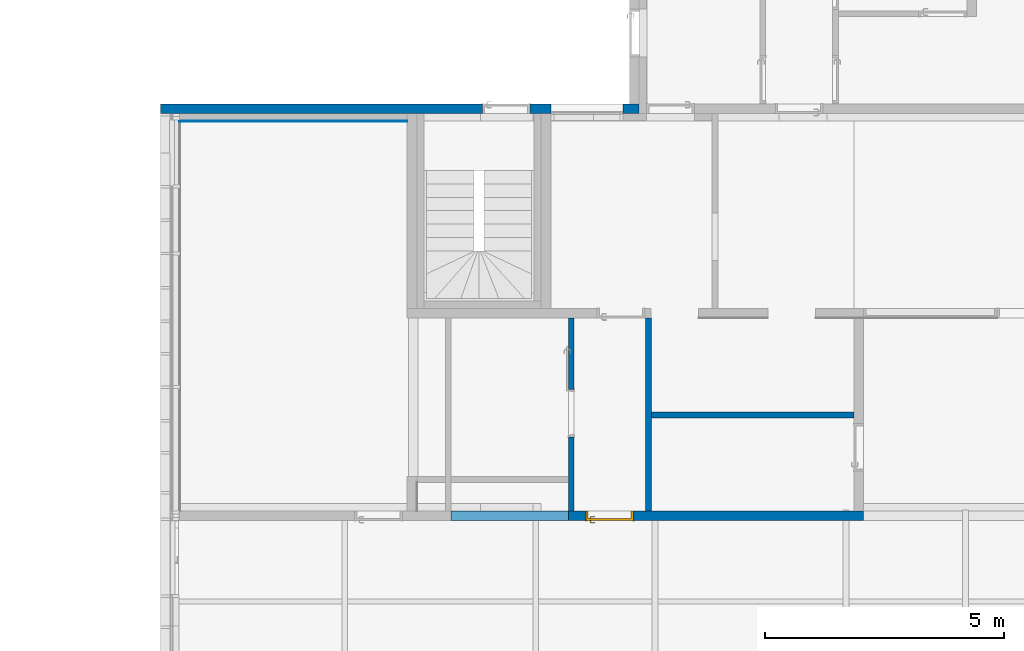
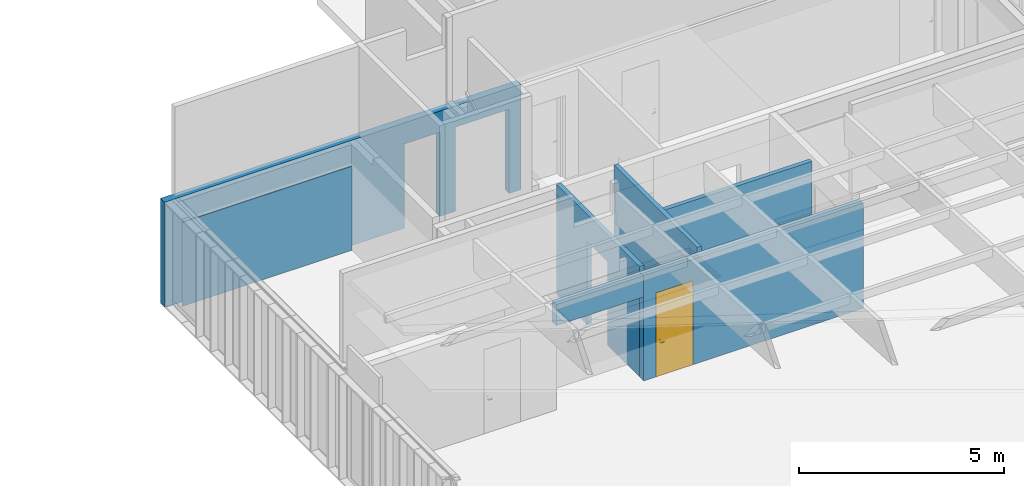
# One storey, part 83 of 240: 7 walls, 1 door, 4 openings.
"""IFC2X3 building model written with IfcOpenShell, lengths in centimetres."""

from ifc_helpers import new_model, entity, si_unit, converted_unit, derived_unit, direction, frame, frame_2d, origin, place, context, subcontext, project, spatial, rectangle, extrude, faceted_brep, source, transform, mapped, material, material_list, layer, layer_set, layer_usage, type_object, type_shapes, element, fill, save


model = new_model("IFC2X3")

# Units and contexts
model_context = context("Model", 3, precision=0.001, world=origin(), true_north=direction((6.12303176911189e-17, 1.0)))
body_context = subcontext(model_context, "Body", "Model", "MODEL_VIEW")
ifc_project = project(units=[si_unit("LENGTHUNIT", "METRE", prefix="CENTI"), si_unit("AREAUNIT", "SQUARE_METRE"), si_unit("VOLUMEUNIT", "CUBIC_METRE"), converted_unit("PLANEANGLEUNIT", "DEGREE", entity("IfcRatioMeasure", 0.0174532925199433), si_unit("PLANEANGLEUNIT", "RADIAN"), dimensions=[0, 0, 0, 0, 0, 0, 0]), si_unit("MASSUNIT", "GRAM", prefix="KILO"), derived_unit("MASSDENSITYUNIT", [(si_unit("MASSUNIT", "GRAM", prefix="KILO"), 1), (si_unit("LENGTHUNIT", "METRE"), -3)]), si_unit("TIMEUNIT", "SECOND"), si_unit("FREQUENCYUNIT", "HERTZ"), si_unit("THERMODYNAMICTEMPERATUREUNIT", "DEGREE_CELSIUS"), derived_unit("THERMALTRANSMITTANCEUNIT", [(si_unit("MASSUNIT", "GRAM", prefix="KILO"), 1), (si_unit("THERMODYNAMICTEMPERATUREUNIT", "KELVIN"), -1), (si_unit("TIMEUNIT", "SECOND"), -3)]), derived_unit("VOLUMETRICFLOWRATEUNIT", [(si_unit("LENGTHUNIT", "METRE"), 3), (si_unit("TIMEUNIT", "SECOND"), -1)]), si_unit("ELECTRICCURRENTUNIT", "AMPERE"), si_unit("ELECTRICVOLTAGEUNIT", "VOLT"), si_unit("POWERUNIT", "WATT"), si_unit("FORCEUNIT", "NEWTON", prefix="KILO"), si_unit("ILLUMINANCEUNIT", "LUX"), si_unit("LUMINOUSFLUXUNIT", "LUMEN"), si_unit("LUMINOUSINTENSITYUNIT", "CANDELA"), derived_unit("USERDEFINED", [(si_unit("MASSUNIT", "GRAM", prefix="KILO"), -1), (si_unit("LENGTHUNIT", "METRE"), -2), (si_unit("TIMEUNIT", "SECOND"), 3), (si_unit("LUMINOUSFLUXUNIT", "LUMEN"), 1)]), derived_unit("LINEARVELOCITYUNIT", [(si_unit("LENGTHUNIT", "METRE"), 1), (si_unit("TIMEUNIT", "SECOND"), -1)]), si_unit("PRESSUREUNIT", "PASCAL"), derived_unit("USERDEFINED", [(si_unit("LENGTHUNIT", "METRE"), -2), (si_unit("MASSUNIT", "GRAM", prefix="KILO"), 1), (si_unit("TIMEUNIT", "SECOND"), -2)])], contexts=[model_context])

# Site, building, storey
site_placement = place(None, frame((-2781.94577612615, 7442.24238424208, 0.0)))
site = spatial("IfcSite", under=ifc_project, at=site_placement, Name="Default", CompositionType="ELEMENT")
building_placement = place(site_placement, origin())
building = spatial("IfcBuilding", under=site, at=building_placement, CompositionType="ELEMENT")
storey_placement = place(building_placement, origin())
storey = spatial("IfcBuildingStorey", under=building, at=storey_placement, Name="N00 - COO", CompositionType="ELEMENT", Elevation=0.0)

# Wall, opening, door
ifc_material_1 = material(Name="01 - Maçonnerie")
ifc_layer_1 = layer(ifc_material_1, 20.0)
ifc_layer_set_1 = layer_set([ifc_layer_1], Name="Mur de base:04 - Structure - béton - 20cm")
ifc_layer_usage_1 = layer_usage(ifc_layer_set_1, "AXIS2", "NEGATIVE", 10.0)
wall_type_1 = type_object("IfcWallType", Name="Mur de base:04 - Structure - béton - 20cm", PredefinedType="STANDARD", material=ifc_layer_set_1)
wall_1_placement = place(building_placement, frame((-10411.9647381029, -4215.50027342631, 0.0), z_axis=(0.0, 0.0, 1.0), x_axis=(-1.0, 0.0, 0.0)))
wall_1 = element("IfcWallStandardCase", 1, at=wall_1_placement, inside=storey, type_object=wall_type_1, material=ifc_layer_usage_1, Name="Mur de base:04 - Structure - béton - 20cm", ObjectType="Mur de base:04 - Structure - béton - 20cm", context=body_context, shape_type="SweptSolid", body=[
    extrude(rectangle(XDim=617.967441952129, YDim=20.0000000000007, at=frame_2d((308.983720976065, 4.44089209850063e-15), x_axis=(-1.0, 0.0))), origin(), (0.0, 0.0, 1.0), 313.000000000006),
])
opening_1_placement = place(wall_1_placement, frame((481.467441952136, -10.0, 0.0)))
opening_1 = element("IfcOpeningElement", 2, at=opening_1_placement, cuts=wall_1, Name="Int. Simple:PP (0.93m x 2.50m):1", ObjectType="Opening", context=body_context, shape_type="SweptSolid", body=[
    extrude(rectangle(XDim=248.500000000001, YDim=99.9999999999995, at=frame_2d((124.250000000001, 50.0), x_axis=(1.0, 0.0))), frame((0.0, 0.0, 0.0), z_axis=(0.0, 1.0, 0.0), x_axis=(0.0, 0.0, 1.0)), (0.0, 0.0, 1.0), 20.0),
])
ifc_material_2 = material(Name="Finition Peinture - Blanc satiné")
ifc_material_3 = material(Name="Bois - Panneau de porte")
ifc_material_4 = material(Name="Bois - Cadre de porte")
ifc_material_list_1 = material_list([ifc_material_2, ifc_material_3, ifc_material_4])
ifc_material_list_2 = material_list([ifc_material_2, ifc_material_3, ifc_material_4])
door_style = type_object("IfcDoorStyle", Name="PP (0.93m x 2.50m)", ConstructionType="NOTDEFINED", OperationType="SINGLE_SWING_LEFT", ParameterTakesPrecedence=False, Sizeable=False, material=ifc_material_list_2)
shared_shape = source(origin(), body_context, "Body", "Brep", [
    faceted_brep([(10.5352761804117, -0.500000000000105, 86.6003983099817), (11.5000000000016, -0.500000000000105, 87.0), (11.5000000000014, -0.500000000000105, 108.0), (10.5352761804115, -0.500000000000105, 108.399601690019), (9.50000000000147, -0.500000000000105, 108.535898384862), (8.46472381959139, -0.500000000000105, 108.399601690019), (7.50000000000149, -0.500000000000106, 108.0), (7.50000000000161, -0.500000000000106, 87.0), (8.46472381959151, -0.500000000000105, 86.6003983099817), (9.50000000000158, -0.500000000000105, 86.464101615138), (10.5352761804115, 0.0, 108.399601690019), (11.5000000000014, 0.0, 108.0), (11.5000000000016, 0.0, 87.0), (10.5352761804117, 0.0, 86.6003983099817), (9.50000000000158, 0.0, 86.464101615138), (8.46472381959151, 0.0, 86.6003983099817), (7.50000000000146, 0.0, 87.0), (7.50000000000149, 0.0, 108.0), (8.46472381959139, 0.0, 108.399601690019), (9.50000000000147, 0.0, 108.535898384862)], [[[0, 1, 2, 3, 4, 5, 6, 7, 8, 9]], [[10, 11, 12, 13, 14, 15, 16, 17, 18, 19]], [[16, 15, 8, 7]], [[8, 15, 14, 9]], [[14, 13, 0, 9]], [[13, 12, 1, 0]], [[2, 1, 12, 11]], [[11, 10, 3, 2]], [[3, 10, 19, 4]], [[19, 18, 5, 4]], [[18, 17, 6, 5]], [[7, 6, 17, 16]]]),
    faceted_brep([(10.5352761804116, 4.0, 86.6003983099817), (11.5000000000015, 4.0, 87.0), (11.5000000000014, 4.0, 108.0), (10.5352761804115, 4.0, 108.399601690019), (9.50000000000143, 4.0, 108.535898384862), (8.46472381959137, 4.0, 108.399601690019), (7.50000000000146, 4.0, 108.0), (7.50000000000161, 4.0, 87.0), (8.46472381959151, 4.0, 86.6003983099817), (9.50000000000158, 4.0, 86.464101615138), (10.5352761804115, 4.49999999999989, 108.399601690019), (11.5000000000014, 4.49999999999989, 108.0), (11.5000000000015, 4.49999999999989, 87.0), (10.5352761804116, 4.49999999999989, 86.6003983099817), (9.50000000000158, 4.49999999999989, 86.464101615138), (8.46472381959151, 4.49999999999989, 86.6003983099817), (7.50000000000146, 4.49999999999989, 87.0), (7.50000000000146, 4.49999999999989, 108.0), (8.46472381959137, 4.49999999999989, 108.399601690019), (9.50000000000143, 4.49999999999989, 108.535898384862)], [[[0, 1, 2, 3, 4, 5, 6, 7, 8, 9]], [[10, 11, 12, 13, 14, 15, 16, 17, 18, 19]], [[11, 10, 3, 2]], [[3, 10, 19, 4]], [[19, 18, 5, 4]], [[18, 17, 6, 5]], [[7, 6, 17, 16]], [[16, 15, 8, 7]], [[8, 15, 14, 9]], [[14, 13, 0, 9]], [[13, 12, 1, 0]], [[2, 1, 12, 11]]]),
    faceted_brep([(9.29747013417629, -0.500000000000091, 100.778044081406), (9.70252986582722, -0.500000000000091, 100.778044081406), (10.1000000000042, -0.500000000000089, 100.699999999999), (10.1000000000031, -0.500000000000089, 99.3000000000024), (9.7025298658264, -0.500000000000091, 99.2219559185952), (9.29747013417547, -0.500000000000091, 99.221955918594), (8.8999999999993, -0.500000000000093, 99.2999999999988), (8.89999999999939, -0.500000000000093, 100.7), (8.89999999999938, -3.26509507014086, 100.7), (9.29747013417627, -3.10045754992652, 100.778044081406), (10.9023585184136, -4.70534593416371, 100.778044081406), (11.0701397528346, -4.30028620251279, 100.778044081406), (9.7025298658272, -2.93267631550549, 100.778044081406), (10.1000000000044, -2.76803879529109, 100.7), (10.1000000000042, -2.76803879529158, 99.3000000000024), (9.7025298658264, -2.93267631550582, 99.2219559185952), (11.0701397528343, -4.30028620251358, 99.2219559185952), (10.9023585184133, -4.70534593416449, 99.221955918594), (9.29747013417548, -3.10045754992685, 99.221955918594), (8.89999999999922, -3.26509507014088, 99.2999999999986), (10.7377209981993, -5.10281606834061, 100.7), (11.2347772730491, -3.90281606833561, 100.7), (11.2347772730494, -3.90281606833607, 99.3000000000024), (10.7377209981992, -5.10281606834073, 99.2999999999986), (19.5018640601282, -5.1028160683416, 99.2999999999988), (19.5018640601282, -4.70534593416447, 99.221955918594), (19.5018640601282, -4.30028620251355, 99.2219559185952), (19.5018640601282, -3.90281606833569, 99.3000000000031), (19.5018640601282, -3.90281606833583, 100.7), (19.5018640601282, -4.30028620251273, 100.778044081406), (19.5018640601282, -4.70534593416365, 100.778044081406), (19.5018640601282, -5.10281606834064, 100.699999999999), (14.7307697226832, -5.10281606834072, 100.7), (15.2860019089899, -4.5028160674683, 100.78786867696), (15.3683206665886, -3.9028160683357, 100.7), (15.3683206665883, -3.90281606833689, 99.3000000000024), (15.2860018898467, -4.50281607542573, 99.2121313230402), (14.7307700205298, -5.10281606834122, 99.2999999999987)], [[[0, 1, 2, 3, 4, 5, 6, 7]], [[8, 9, 0, 7]], [[9, 10, 11, 12, 1, 0]], [[12, 13, 2, 1]], [[3, 2, 13, 14]], [[14, 15, 4, 3]], [[15, 16, 17, 18, 5, 4]], [[18, 19, 6, 5]], [[7, 6, 19, 8]], [[20, 10, 9, 8]], [[11, 21, 13, 12]], [[14, 13, 21, 22]], [[22, 16, 15, 14]], [[17, 23, 19, 18]], [[8, 19, 23, 20]], [[24, 25, 26, 27, 28, 29, 30, 31]], [[32, 30, 33]], [[31, 30, 32]], [[10, 20, 32]], [[33, 34, 11]], [[21, 11, 34]], [[34, 29, 28]], [[30, 29, 33]], [[29, 34, 33]], [[10, 32, 33]], [[10, 33, 11]], [[22, 21, 34, 28, 27, 35]], [[35, 26, 36]], [[37, 36, 25]], [[22, 35, 16]], [[35, 27, 26]], [[24, 37, 25]], [[23, 17, 37]], [[37, 17, 36]], [[17, 16, 36]], [[16, 35, 36]], [[25, 36, 26]], [[20, 23, 37, 24, 31, 32]]]),
    faceted_brep([(9.29747013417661, 4.49999999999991, 100.778044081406), (8.89999999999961, 4.4999999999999, 100.7), (8.89999999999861, 4.4999999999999, 99.2999999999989), (9.29747013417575, 4.49999999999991, 99.221955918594), (9.70252986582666, 4.49999999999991, 99.2219559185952), (10.1000000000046, 4.49999999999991, 99.3000000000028), (10.1000000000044, 4.49999999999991, 100.7), (9.70252986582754, 4.49999999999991, 100.778044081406), (10.1000000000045, 6.7485204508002, 99.3000000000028), (10.1000000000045, 6.74852045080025, 100.7), (9.70252986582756, 6.91315797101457, 100.778044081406), (11.083890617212, 8.29451872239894, 100.778044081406), (10.916109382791, 8.69957845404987, 100.778044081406), (9.29747013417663, 7.0809392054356, 100.778044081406), (8.89999999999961, 7.24557672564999, 100.7), (8.89999999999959, 7.2455767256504, 99.2999999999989), (9.29747013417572, 7.08093920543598, 99.221955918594), (10.9161093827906, 8.69957845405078, 99.221955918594), (11.0838906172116, 8.29451872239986, 99.2219559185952), (9.70252986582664, 6.91315797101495, 99.2219559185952), (11.2485281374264, 7.89704858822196, 99.3000000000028), (11.2485281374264, 7.89704858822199, 100.7), (10.7514718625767, 9.09704858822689, 100.7), (10.7514718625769, 9.0970485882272, 99.2999999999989), (19.5045783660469, 7.89704858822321, 99.3000000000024), (19.5045783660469, 8.29451872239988, 99.2219559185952), (19.5045783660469, 8.6995784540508, 99.221955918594), (19.5045783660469, 9.09704858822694, 99.2999999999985), (19.5045783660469, 9.09704858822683, 100.7), (19.5045783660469, 8.69957845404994, 100.778044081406), (19.5045783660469, 8.29451872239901, 100.778044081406), (19.5045783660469, 7.89704858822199, 100.7), (15.3765520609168, 7.89704858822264, 99.3000000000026), (15.3765532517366, 7.89704858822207, 100.7), (15.294234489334, 8.49704858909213, 100.78786867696), (14.7445205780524, 9.09704858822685, 100.7), (14.7445204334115, 9.09704858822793, 99.2999999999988), (15.2942345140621, 8.49704858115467, 99.2121313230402)], [[[0, 1, 2, 3, 4, 5, 6, 7]], [[6, 5, 8, 9]], [[9, 10, 7, 6]], [[10, 11, 12, 13, 0, 7]], [[13, 14, 1, 0]], [[2, 1, 14, 15]], [[15, 16, 3, 2]], [[16, 17, 18, 19, 4, 3]], [[19, 8, 5, 4]], [[9, 8, 20, 21]], [[21, 11, 10, 9]], [[12, 22, 14, 13]], [[15, 14, 22, 23]], [[23, 17, 16, 15]], [[18, 20, 8, 19]], [[24, 25, 26, 27, 28, 29, 30, 31]], [[21, 20, 32, 24, 31, 33]], [[33, 30, 34]], [[35, 34, 29]], [[21, 33, 11]], [[33, 31, 30]], [[28, 35, 29]], [[22, 12, 35]], [[35, 12, 34]], [[12, 11, 34]], [[11, 33, 34]], [[29, 34, 30]], [[22, 35, 28, 27, 36, 23]], [[36, 26, 37]], [[27, 26, 36]], [[17, 23, 36]], [[37, 32, 18]], [[20, 18, 32]], [[32, 25, 24]], [[26, 25, 37]], [[25, 32, 37]], [[17, 36, 37]], [[17, 37, 18]]]),
    faceted_brep([(3.50000000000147, 4.0, 245.0), (96.5000000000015, 4.0, 245.0), (96.5000000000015, 4.0, 0.0), (3.50000000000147, 4.0, 0.0), (3.50000000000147, 0.0, 245.0), (3.50000000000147, 0.0, 0.0), (96.5000000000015, 0.0, 0.0), (96.5000000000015, 0.0, 245.0)], [[[0, 1, 2, 3]], [[4, 5, 6, 7]], [[1, 0, 4, 7]], [[2, 1, 7, 6]], [[3, 2, 6, 5]], [[0, 3, 5, 4]]]),
    faceted_brep([(0.0, 20.0, 0.0), (-1.50000000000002, 20.0, 0.0), (-1.50000000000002, 20.5000000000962, 0.0), (5.0, 20.5000000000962, 0.0), (5.0, 4.0, 0.0), (3.50000000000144, 4.0, 0.0), (3.50000000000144, -0.500000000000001, 0.0), (-1.50000000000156, -0.500000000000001, 0.0), (-1.50000000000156, 0.0, 0.0), (0.0, 0.0, 0.0), (0.0, 20.0, 248.500000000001), (100.0, 20.0, 248.500000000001), (100.0, 20.0, 0.0), (101.5, 20.0, 0.0), (101.5, 20.0, 250.0), (-1.50000000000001, 20.0, 250.0), (-1.50000000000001, 20.5000000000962, 250.0), (101.5, 20.5000000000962, 250.0), (101.5, 20.5000000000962, 0.0), (95.0, 20.5000000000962, 0.0), (95.0, 20.5000000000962, 243.5), (5.0, 20.5000000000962, 243.5), (5.0, 4.0, 243.5), (95.0, 4.0, 243.5), (95.0, 4.0, 0.0), (96.499999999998, 4.0, 0.0), (96.499999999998, 4.0, 245.0), (3.50000000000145, 4.0, 245.0), (3.50000000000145, -0.500000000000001, 245.0), (96.499999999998, -0.500000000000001, 245.0), (96.499999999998, -0.500000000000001, 0.0), (101.500000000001, -0.500000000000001, 0.0), (101.500000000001, -0.500000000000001, 250.0), (-1.50000000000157, -0.500000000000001, 250.0), (-1.50000000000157, 0.0, 250.0), (101.500000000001, 0.0, 250.0), (101.500000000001, 0.0, 0.0), (100.0, 0.0, 0.0), (100.0, 0.0, 248.500000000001), (0.0, 0.0, 248.500000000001)], [[[0, 1, 2, 3, 4, 5, 6, 7, 8, 9]], [[1, 0, 10, 11, 12, 13, 14, 15]], [[2, 1, 15, 16]], [[3, 2, 16, 17, 18, 19, 20, 21]], [[3, 21, 22, 4]], [[5, 4, 22, 23, 24, 25, 26, 27]], [[5, 27, 28, 6]], [[7, 6, 28, 29, 30, 31, 32, 33]], [[8, 7, 33, 34]], [[9, 8, 34, 35, 36, 37, 38, 39]], [[0, 9, 39, 10]], [[11, 38, 37, 12]], [[12, 37, 36, 31, 30, 25, 24, 19, 18, 13]], [[17, 14, 13, 18]], [[23, 20, 19, 24]], [[29, 26, 25, 30]], [[35, 32, 31, 36]], [[16, 15, 14, 17]], [[22, 21, 20, 23]], [[28, 27, 26, 29]], [[34, 33, 32, 35]], [[10, 39, 38, 11]]]),
])
type_shapes(door_style, [shared_shape])
door_placement = place(opening_1_placement, frame((100.0, 20.0, 0.0), z_axis=(0.0, 0.0, 1.0), x_axis=(-1.0, 0.0, 0.0)))
door = element("IfcDoor", 3, at=door_placement, inside=storey, type_object=door_style, material=ifc_material_list_1, Name="Int. Simple:PP (0.93m x 2.50m)", ObjectType="Int. Simple:PP (0.93m x 2.50m)", OverallHeight=248.500000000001, OverallWidth=99.9999999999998, context=body_context, shape_type="MappedRepresentation", body=[
    mapped(shared_shape, transform((0.0, 0.0, 0.0), scale=1.0)),
])
fill(opening_1, door)

# Wall, openings
ifc_layer_usage_2 = layer_usage(ifc_layer_set_1, "AXIS2", "NEGATIVE", 10.0)
wall_2_placement = place(building_placement, frame((-10881.6130476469, -3362.52180651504, 0.0), z_axis=(0.0, 0.0, 1.0), x_axis=(-1.0, 0.0, 0.0)))
wall_2 = element("IfcWallStandardCase", 4, at=wall_2_placement, inside=storey, type_object=wall_type_1, material=ifc_layer_usage_2, Name="Mur de base:04 - Structure - béton - 20cm", ObjectType="Mur de base:04 - Structure - béton - 20cm", context=body_context, shape_type="SweptSolid", body=[
    extrude(rectangle(XDim=1002.53614081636, YDim=19.9999999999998, at=frame_2d((501.268070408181, -1.09245945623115e-13), x_axis=(-1.0, 0.0))), origin(), (0.0, 0.0, 1.0), 313.000000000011),
])
opening_2_placement = place(wall_2_placement, origin())
element("IfcOpeningElement", 5, at=opening_2_placement, cuts=wall_2, Name="Mur de base:04 - Structure - béton - 20cm", ObjectType="Opening", context=body_context, shape_type="SweptSolid", body=[
    extrude(rectangle(XDim=250.0, YDim=151.269760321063, at=frame_2d((-8.66862137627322e-13, 0.0), x_axis=(0.0, 1.0))), frame((109.634880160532, -25.2399999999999, 125.0), z_axis=(0.0, 1.0, 0.0), x_axis=(-1.0, 0.0, 0.0)), (0.0, 0.0, 1.0), 50.4800000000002),
])
opening_3_placement = place(wall_2_placement, frame((328.569760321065, 10.0, 0.0)))
element("IfcOpeningElement", 6, at=opening_3_placement, cuts=wall_2, Name="Int. Simple:PP EXT - Local poubelle  (0.93m x 2.50m):1", ObjectType="Opening", context=body_context, shape_type="SweptSolid", body=[
    extrude(rectangle(XDim=250.000000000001, YDim=99.9999999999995, at=frame_2d((125.000000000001, 49.9999999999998), x_axis=(1.0, 0.0))), frame((0.0, 0.0, 0.0), z_axis=(0.0, -1.0, 0.0), x_axis=(0.0, 0.0, 1.0)), (0.0, 0.0, 1.0), 20.0),
])

# Wall
ifc_layer_usage_3 = layer_usage(ifc_layer_set_1, "AXIS2", "NEGATIVE", 10.0)
wall_3_placement = place(building_placement, frame((-11275.482807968, -4215.50027342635, 250.0)))
element("IfcWallStandardCase", 7, at=wall_3_placement, inside=storey, type_object=wall_type_1, material=ifc_layer_usage_3, Name="Mur de base:04 - Structure - béton - 20cm", ObjectType="Mur de base:04 - Structure - béton - 20cm", context=body_context, shape_type="SweptSolid", body=[
    extrude(rectangle(XDim=245.550627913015, YDim=19.9999999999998, at=frame_2d((-8.66862137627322e-13, 8.65973959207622e-13), x_axis=(1.0, 0.0))), frame((122.775313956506, 0.0, 0.0), z_axis=(0.0, 0.0, 1.0), x_axis=(-1.0, 0.0, 0.0)), (0.0, 0.0, 1.0), 63.0000000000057),
])

# Wall, opening
ifc_material_5 = material(Name="01 - Enduit/Plâtre")
ifc_layer_2 = layer(ifc_material_5, 1.0)
ifc_material_6 = material(Name="Maçonnerie - Béton")
ifc_layer_3 = layer(ifc_material_6, 10.0)
ifc_layer_4 = layer(ifc_material_5, 1.0)
ifc_layer_set_2 = layer_set([ifc_layer_2, ifc_layer_3, ifc_layer_4], Name="Mur de base:06 - cloisons - agglos10 + faïence 12cm")
ifc_layer_usage_4 = layer_usage(ifc_layer_set_2, "AXIS2", "NEGATIVE", 6.0)
wall_type_2 = type_object("IfcWallType", Name="Mur de base:06 - cloisons - agglos10 + faïence 12cm", PredefinedType="STANDARD", material=ifc_layer_set_2)
wall_4_placement = place(building_placement, frame((-11023.932180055, -3800.7196611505, 0.0), z_axis=(0.0, 0.0, 1.0), x_axis=(0.0, -1.0, 0.0)))
wall_4 = element("IfcWallStandardCase", 8, at=wall_4_placement, inside=storey, type_object=wall_type_2, material=ifc_layer_usage_4, Name="Mur de base:06 - cloisons - agglos10 + faïence 12cm", ObjectType="Mur de base:06 - cloisons - agglos10 + faïence 12cm", context=body_context, shape_type="SweptSolid", body=[
    extrude(rectangle(XDim=404.780612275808, YDim=12.0000000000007, at=frame_2d((202.390306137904, 0.0), x_axis=(-1.0, 0.0))), origin(), (0.0, 0.0, 1.0), 328.0),
])
opening_4_placement = place(wall_4_placement, frame((249.780612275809, 6.0, 0.0)))
element("IfcOpeningElement", 9, at=opening_4_placement, cuts=wall_4, Name="Int. Simple:PP simple (0.93m x 2.50m):1", ObjectType="Opening", context=body_context, shape_type="SweptSolid", body=[
    extrude(rectangle(XDim=248.500000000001, YDim=99.9999999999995, at=frame_2d((124.250000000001, 49.9999999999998), x_axis=(1.0, 0.0))), frame((0.0, 0.0, 0.0), z_axis=(0.0, -1.0, 0.0), x_axis=(0.0, 0.0, 1.0)), (0.0, 0.0, 1.0), 12.0),
])

# Walls
ifc_layer_usage_5 = layer_usage(ifc_layer_set_2, "AXIS2", "NEGATIVE", 6.0)
wall_5_placement = place(building_placement, frame((-10862.0, -3800.7196611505, 0.0), z_axis=(0.0, 0.0, 1.0), x_axis=(0.0, -1.0, 0.0)))
element("IfcWallStandardCase", 10, at=wall_5_placement, inside=storey, type_object=wall_type_2, material=ifc_layer_usage_5, Name="Mur de base:06 - cloisons - agglos10 + faïence 12cm", ObjectType="Mur de base:06 - cloisons - agglos10 + faïence 12cm", context=body_context, shape_type="SweptSolid", body=[
    extrude(rectangle(XDim=404.780612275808, YDim=12.0000000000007, at=frame_2d((202.390306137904, 0.0), x_axis=(-1.0, 0.0))), origin(), (0.0, 0.0, 1.0), 328.0),
])
ifc_layer_usage_6 = layer_usage(ifc_layer_set_2, "AXIS2", "NEGATIVE", 6.0)
wall_6_placement = place(building_placement, frame((-10856.0, -4004.10996728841, 0.0)))
element("IfcWallStandardCase", 11, at=wall_6_placement, inside=storey, type_object=wall_type_2, material=ifc_layer_usage_6, Name="Mur de base:06 - cloisons - agglos10 + faïence 12cm", ObjectType="Mur de base:06 - cloisons - agglos10 + faïence 12cm", context=body_context, shape_type="SweptSolid", body=[
    extrude(rectangle(XDim=424.035258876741, YDim=12.0000000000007, at=frame_2d((212.017629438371, 4.84057238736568e-14), x_axis=(-1.0, 0.0))), origin(), (0.0, 0.0, 1.0), 313.000000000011),
])
ifc_material_7 = material(Name="CP bouleau perforé")
ifc_layer_5 = layer(ifc_material_7, 2.0)
ifc_layer_set_3 = layer_set([ifc_layer_5], Name="Mur de base:06 - habillage bois collée 2cm perforé")
ifc_layer_usage_7 = layer_usage(ifc_layer_set_3, "AXIS2", "NEGATIVE", 1.0)
wall_type_3 = type_object("IfcWallType", Name="Mur de base:06 - habillage bois collée 2cm perforé", PredefinedType="STANDARD", material=ifc_layer_set_3)
wall_7_placement = place(storey_placement, frame((-11844.8844031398, -3388.8218065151, 0.0)))
element("IfcWallStandardCase", 12, at=wall_7_placement, inside=storey, type_object=wall_type_3, material=ifc_layer_usage_7, Name="Mur de base:06 - habillage bois collée 2cm perforé", ObjectType="Mur de base:06 - habillage bois collée 2cm perforé", context=body_context, shape_type="SweptSolid", body=[
    extrude(rectangle(XDim=477.401595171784, YDim=2.00000000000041, at=frame_2d((238.700797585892, 1.12465592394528e-13), x_axis=(-1.0, 0.0))), origin(), (0.0, 0.0, 1.0), 249.999999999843),
])

save(model, "model.ifc")
